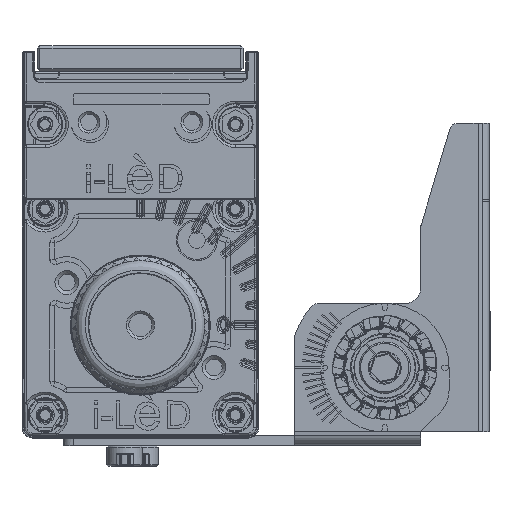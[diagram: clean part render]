
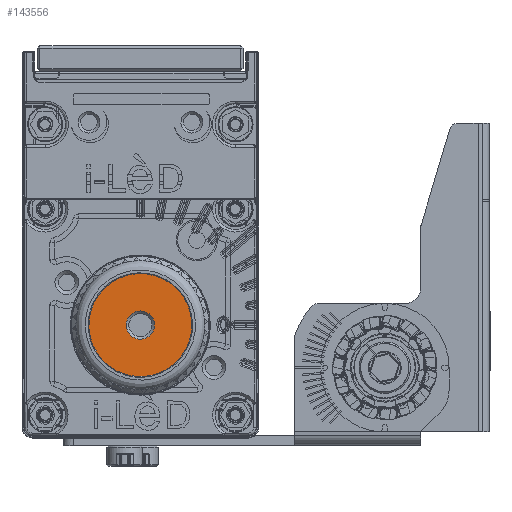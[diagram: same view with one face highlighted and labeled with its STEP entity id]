
A CAD part, front view. The second image highlights one B-rep face of the part: STEP entity #143556.
In plain terms, the highlighted planar face has unit normal (0, -1, 0).
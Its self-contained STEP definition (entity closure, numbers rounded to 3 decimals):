
#22627=ORIENTED_EDGE('',*,*,#53886,.T.);
#22628=ORIENTED_EDGE('',*,*,#53885,.T.);
#53885=EDGE_CURVE('',#69529,#69529,#79246,.T.);
#53886=EDGE_CURVE('',#69530,#69530,#79247,.T.);
#69529=VERTEX_POINT('',#189816);
#69530=VERTEX_POINT('',#189819);
#79246=CIRCLE('',#149791,2.75);
#79247=CIRCLE('',#149793,10.);
#83688=EDGE_LOOP('',(#22627));
#83689=EDGE_LOOP('',(#22628));
#90741=FACE_BOUND('',#83688,.T.);
#90742=FACE_BOUND('',#83689,.T.);
#97756=PLANE('',#149792);
#143556=ADVANCED_FACE('',(#90741,#90742),#97756,.T.);
#149791=AXIS2_PLACEMENT_3D('',#189815,#160687,#160688);
#149792=AXIS2_PLACEMENT_3D('',#189817,#160689,#160690);
#149793=AXIS2_PLACEMENT_3D('',#189818,#160691,#160692);
#160687=DIRECTION('',(0.,1.,0.));
#160688=DIRECTION('',(-0.974,0.,-0.228));
#160689=DIRECTION('',(0.,-1.,0.));
#160690=DIRECTION('',(-0.974,0.,-0.228));
#160691=DIRECTION('',(0.,-1.,0.));
#160692=DIRECTION('',(-0.974,0.,-0.228));
#189815=CARTESIAN_POINT('',(0.,-1090.85,-54.6));
#189816=CARTESIAN_POINT('',(-2.678,-1090.85,-55.226));
#189817=CARTESIAN_POINT('',(0.,-1090.85,-54.6));
#189818=CARTESIAN_POINT('',(0.,-1090.85,-54.6));
#189819=CARTESIAN_POINT('',(-9.738,-1090.85,-56.876));
